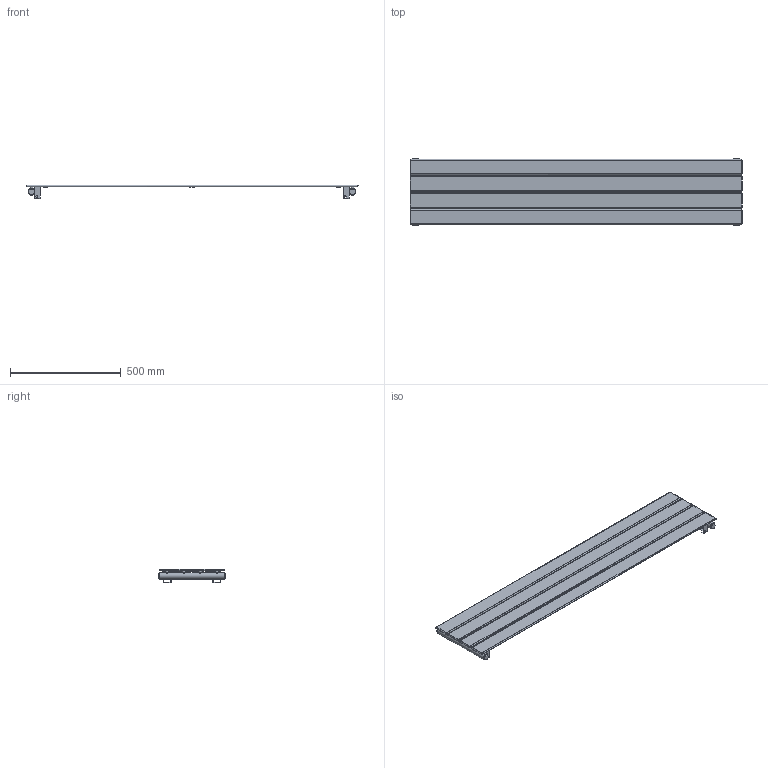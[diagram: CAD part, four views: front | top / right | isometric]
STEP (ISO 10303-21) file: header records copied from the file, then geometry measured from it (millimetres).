
FILE_DESCRIPTION(/* description */ (''),/* implementation_level */ '2;1');
FILE_NAME(/* name */ 'C:\Grzejniki\13DLUXRAD\pokojowe\NIAGARA\to\NIAGARA 1500x295.iam.stp',/* time_stamp */ '2016-06-28T17:33:33+02:00',/* author */ ('m.szydziak'),/* organization */ (''),/* preprocessor_version */ 'ST-DEVELOPER v16.5',/* originating_system */ 'Autodesk Inventor 2017',/* authorisation */ '');
FILE_SCHEMA (('AUTOMOTIVE_DESIGN { 1 0 10303 214 3 1 1 }'));
Length unit declared in the file: millimetre
Products named in the file (8): NIAGARA 1500x295; %%C30x1,5x295; 70x8x1,2x1504; michałek; ucho duze; ucho duze 2; poprzeczka 255; korek
Assembly tree (25 placements, depth 2):
  NIAGARA 1500x295
    %%C30x1,5x295  x2
    70x8x1,2x1504  x4
    michałek  x8
    ucho duze  x2
    ucho duze 2  x2
    poprzeczka 255  x3
    korek  x4
Bounding box: 1500 x 307 x 62.5 mm (x, y, z)
Volume: 1204065.5 mm3; surface area: 1926937.1 mm2
Topology: 25 solids, 25 shells, 366 faces, 862 edges, 544 vertices
Faces by surface type: plane 210, cylinder 124, sphere 32
Full cylindrical faces by diameter (mm): 8 x8, 9 x8, 10 x16, 11.5 x8, 18.631 x4, 24 x4, 27 x2, 30 x2
Entity records: 4140 total; most frequent: CARTESIAN_POINT 951, DIRECTION 655, ORIENTED_EDGE 550, EDGE_CURVE 275, AXIS2_PLACEMENT_3D 241, VERTEX_POINT 179, LINE 173, VECTOR 173
